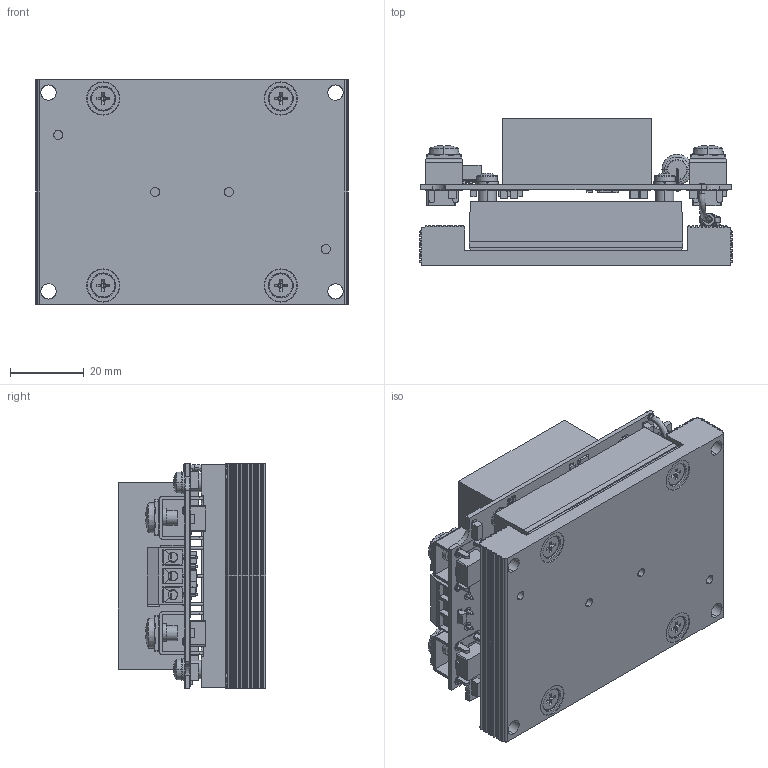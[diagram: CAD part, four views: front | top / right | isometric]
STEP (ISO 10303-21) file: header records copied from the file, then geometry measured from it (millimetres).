
FILE_DESCRIPTION (( 'STEP AP214' ), '1' );
FILE_NAME ('TEP 100 72 CMF.STEP', '2022-05-11T06:17:53', ( '' ), ( '' ), 'SwSTEP 2.0', 'SolidWorks 2016', '' );
FILE_SCHEMA (( 'AUTOMOTIVE_DESIGN' ));
Length unit declared in the file: millimetre
Products named in the file (1): TEP 100 72 CMF
Bounding box: 85 x 40.09 x 61 mm (x, y, z)
Volume: 126169.7 mm3; surface area: 65001.6 mm2
Topology: 55 solids, 55 shells, 3534 faces, 9140 edges, 5866 vertices
Faces by surface type: plane 2016, cylinder 1162, bspline 179, cone 177
Entity records: 138549 total; most frequent: CARTESIAN_POINT 26107, ORIENTED_EDGE 18166, DIRECTION 17800, EDGE_CURVE 9083, AXIS2_PLACEMENT_3D 6047, VERTEX_POINT 5866, VECTOR 5706, LINE 5706
